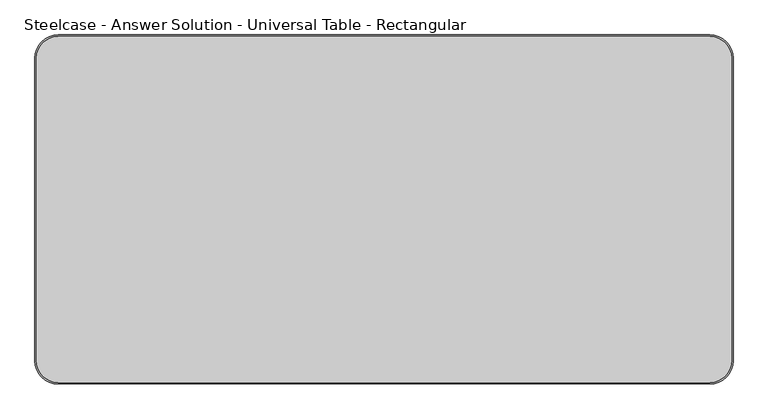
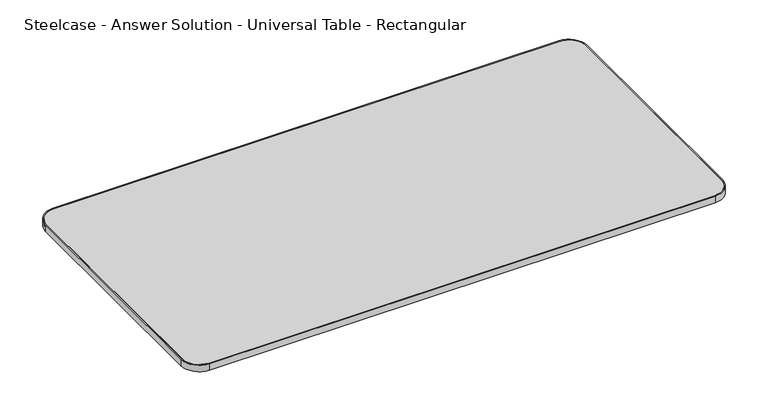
"""IFC4 building model written with IfcOpenShell, lengths in millimetres: furniture geometry, Steelcase - Answer Solution - Universal Table - Rectangular : 48D x 96W."""

from ifc_helpers import new_model, si_unit, point, frame, frame_2d, origin, place, context, project, spatial, polyline, circle_curve, trimmed, segment, composite_curve, outline, extrude, source, transform, mapped, element, save


def steelcase_answer_solution_universal_table_rectangular_2bf88e8f(model_context):
    return source(origin(), model_context, "Body", "SweptSolid", [
        extrude(outline(composite_curve([segment(polyline([(5.08, -1137.92), (5.08, -81.28)]), True, "CONTINUOUS"), segment(trimmed(circle_curve(frame_2d((81.28, -81.28)), 76.2), [point((5.08, -81.28))], [point((81.28, -5.08))], False, "CARTESIAN"), True, "CONTINUOUS"), segment(polyline([(81.28, -5.08), (2357.12, -5.08)]), True, "CONTINUOUS"), segment(trimmed(circle_curve(frame_2d((2357.12, -81.28)), 76.2), [point((2357.12, -5.08))], [point((2433.32, -81.28))], False, "CARTESIAN"), True, "CONTINUOUS"), segment(polyline([(2433.32, -81.28), (2433.32, -1137.92)]), True, "CONTINUOUS"), segment(trimmed(circle_curve(frame_2d((2357.12, -1137.92)), 76.2), [point((2433.32, -1137.92))], [point((2357.12, -1214.12))], False, "CARTESIAN"), True, "CONTINUOUS"), segment(polyline([(2357.12, -1214.12), (81.28, -1214.12)]), True, "CONTINUOUS"), segment(trimmed(circle_curve(frame_2d((81.28, -1137.92)), 76.2), [point((81.28, -1214.12))], [point((5.08, -1137.92))], False, "CARTESIAN"), True, "CONTINUOUS")], self_intersect=False)), frame((0.0, 0.0, 668.274), z_axis=(0.0, 0.0, 1.0), x_axis=(1.0, 0.0, 0.0)), (0.0, 0.0, 1.0), 30.0990349),
        extrude(outline(composite_curve([segment(polyline([(81.28, 0.0), (2357.12, 0.0)]), True, "CONTINUOUS"), segment(trimmed(circle_curve(frame_2d((2357.12, -81.28)), 81.28), [point((2357.12, 0.0))], [point((2438.4, -81.28))], False, "CARTESIAN"), True, "CONTINUOUS"), segment(polyline([(2438.4, -81.28), (2438.4, -1137.92)]), True, "CONTINUOUS"), segment(trimmed(circle_curve(frame_2d((2357.12, -1137.92)), 81.28), [point((2438.4, -1137.92))], [point((2357.12, -1219.2))], False, "CARTESIAN"), True, "CONTINUOUS"), segment(polyline([(2357.12, -1219.2), (81.28, -1219.2)]), True, "CONTINUOUS"), segment(trimmed(circle_curve(frame_2d((81.28, -1137.92)), 81.28), [point((81.28, -1219.2))], [point((0.0, -1137.92))], False, "CARTESIAN"), True, "CONTINUOUS"), segment(polyline([(0.0, -1137.92), (0.0, -81.28)]), True, "CONTINUOUS"), segment(trimmed(circle_curve(frame_2d((81.28, -81.28)), 81.28), [point((0.0, -81.28))], [point((81.28, 0.0))], False, "CARTESIAN"), True, "CONTINUOUS")], self_intersect=False), holes=[composite_curve([segment(trimmed(circle_curve(frame_2d((81.28, -81.28)), 76.2), [point((81.28, -5.08))], [point((5.08, -81.28))], True, "CARTESIAN"), True, "CONTINUOUS"), segment(polyline([(5.08, -81.28), (5.08, -1137.92)]), True, "CONTINUOUS"), segment(trimmed(circle_curve(frame_2d((81.28, -1137.92)), 76.2), [point((5.08, -1137.92))], [point((81.28, -1214.12))], True, "CARTESIAN"), True, "CONTINUOUS"), segment(polyline([(81.28, -1214.12), (2357.12, -1214.12)]), True, "CONTINUOUS"), segment(trimmed(circle_curve(frame_2d((2357.12, -1137.92)), 76.2), [point((2357.12, -1214.12))], [point((2433.32, -1137.92))], True, "CARTESIAN"), True, "CONTINUOUS"), segment(polyline([(2433.32, -1137.92), (2433.32, -81.28)]), True, "CONTINUOUS"), segment(trimmed(circle_curve(frame_2d((2357.12, -81.28)), 76.2), [point((2433.32, -81.28))], [point((2357.12, -5.08))], True, "CARTESIAN"), True, "CONTINUOUS"), segment(polyline([(2357.12, -5.08), (81.28, -5.08)]), True, "CONTINUOUS")], self_intersect=False)]), frame((0.0, 0.0, 668.274), z_axis=(0.0, 0.0, 1.0), x_axis=(1.0, 0.0, 0.0)), (0.0, 0.0, 1.0), 30.0990349),
    ])


if __name__ == "__main__":
    model = new_model("IFC4")
    model_context = context("Model", 3, world=origin())
    ifc_project = project(units=[si_unit("LENGTHUNIT", "METRE", prefix="MILLI")], contexts=[model_context])
    site = spatial("IfcSite", under=ifc_project)
    building = spatial("IfcBuilding", under=site)
    placement = place(None, origin())
    steelcase_answer_solution_universal_table_rectangular_shape = steelcase_answer_solution_universal_table_rectangular_2bf88e8f(model_context)
    element("IfcFurniture", 1, ObjectType="Steelcase - Answer Solution - Universal Table - Rectangular : 48D x 96W", at=placement, inside=building, context=model_context, shape_type="MappedRepresentation", body=[
        mapped(steelcase_answer_solution_universal_table_rectangular_shape, transform((0.0, 0.0, 0.0), x_axis=(1.0, 0.0, 0.0), y_axis=(0.0, 1.0, 0.0), z_axis=(0.0, 0.0, 1.0))),
    ])
    save(model, "model.ifc")
